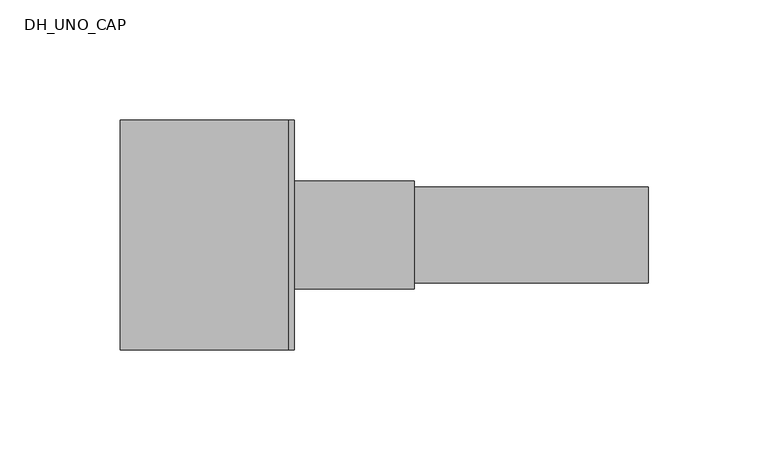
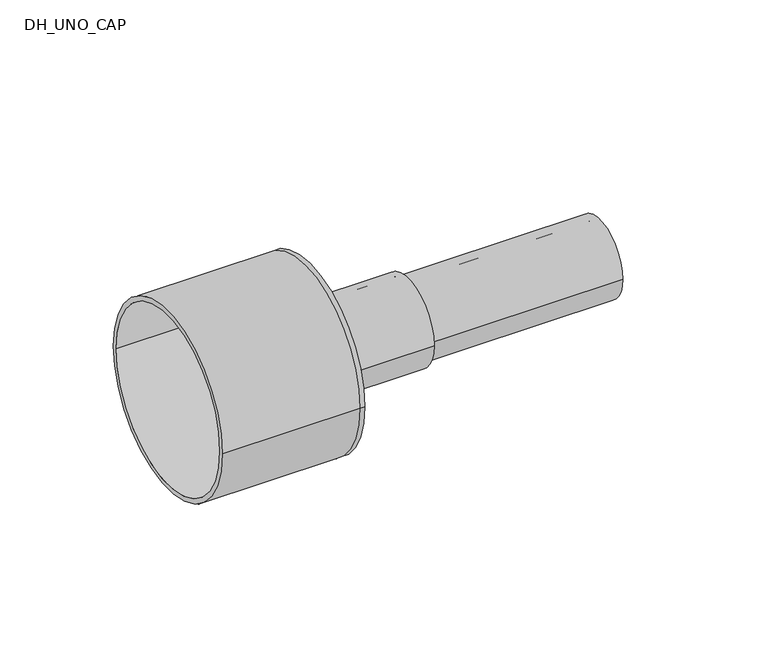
"""IFC4 building model written with IfcOpenShell, lengths in millimetres: pipe fitting geometry, DH_UNO_CAP : RAUTHERMEX UNO 11 COOL - Rubber Cap."""

from ifc_helpers import new_model, si_unit, point, frame, origin, origin_2d, place, context, project, spatial, polyline, circle_curve, trimmed, segment, composite_curve, outline, extrude, source, transform, mapped, element, save
from ifc_brep_helpers import plane_surface, cylinder_surface, revolved_surface, advanced_brep


def dh_uno_cap_723df487(model_context):
    return source(origin(), model_context, "Body", "SolidModel", [
        extrude(outline(composite_curve([segment(trimmed(circle_curve(origin_2d(), 20.0), [point((-20.0, 0.0))], [point((20.0, 0.0))], False, "CARTESIAN"), True, "CONTINUOUS"), segment(trimmed(circle_curve(origin_2d(), 20.0), [point((20.0, 0.0))], [point((-20.0, 0.0))], False, "CARTESIAN"), True, "CONTINUOUS")], self_intersect=False), holes=[composite_curve([segment(trimmed(circle_curve(origin_2d(), 16.3), [point((-16.3, 0.0))], [point((16.3, 0.0))], True, "CARTESIAN"), True, "CONTINUOUS"), segment(trimmed(circle_curve(origin_2d(), 16.3), [point((16.3, 0.0))], [point((-16.3, 0.0))], True, "CARTESIAN"), True, "CONTINUOUS")], self_intersect=False)]), frame((0.0, 0.0, 0.0), z_axis=(1.0, 0.0, 0.0), x_axis=(0.0, 1.0, 0.0)), (0.0, 0.0, 1.0), 150.0),
        advanced_brep(
        [(-70.0, -48.0, 0.0), (-70.0, 48.0, 0.0), (-70.0, -45.5, 0.0), (-70.0, 45.5, 0.0), (0.0, -45.5, 0.0), (0.0, 45.5, 0.0), (0.0, -48.0, 0.0), (0.0, 48.0, 0.0), (0.0, 20.0, 0.0), (0.0, -20.0, 0.0), (2.5, -48.0, 0.0), (2.5, 48.0, 0.0), (2.5, -20.0, 0.0), (2.5, 20.0, 0.0)],
        [
            (0, 1, circle_curve(frame((-70.0, 0.0, 0.0), z_axis=(-1.0, 0.0, 0.0), x_axis=(0.0, 1.0, 0.0)), 48.0)),
            (1, 0, circle_curve(frame((-70.0, 0.0, 0.0), z_axis=(-1.0, 0.0, 0.0), x_axis=(0.0, 1.0, 0.0)), 48.0)),
            (2, 3, circle_curve(frame((-70.0, 0.0, 0.0), z_axis=(1.0, 0.0, 0.0), x_axis=(0.0, 1.0, 0.0)), 45.5)),
            (3, 2, circle_curve(frame((-70.0, 0.0, 0.0), z_axis=(1.0, 0.0, 0.0), x_axis=(0.0, 1.0, 0.0)), 45.5)),
            (2, 4),
            (4, 5, circle_curve(frame((0.0, 0.0, 0.0), z_axis=(1.0, 0.0, 0.0), x_axis=(0.0, 1.0, 0.0)), 45.5)),
            (5, 3),
            (5, 4, circle_curve(frame((0.0, 0.0, 0.0), z_axis=(1.0, 0.0, 0.0), x_axis=(0.0, 1.0, 0.0)), 45.5)),
            (0, 6),
            (6, 7, circle_curve(frame((0.0, 0.0, 0.0), z_axis=(-1.0, 0.0, 0.0), x_axis=(0.0, 1.0, 0.0)), 48.0)),
            (7, 1),
            (7, 6, circle_curve(frame((0.0, 0.0, 0.0), z_axis=(-1.0, 0.0, 0.0), x_axis=(0.0, 1.0, 0.0)), 48.0)),
            (8, 9, circle_curve(frame((0.0, 0.0, 0.0), z_axis=(1.0, 0.0, 0.0), x_axis=(0.0, 1.0, 0.0)), 20.0)),
            (9, 8, circle_curve(frame((0.0, 0.0, 0.0), z_axis=(1.0, 0.0, 0.0), x_axis=(0.0, 1.0, 0.0)), 20.0)),
            (10, 11, circle_curve(frame((2.5, 0.0, 0.0), z_axis=(1.0, 0.0, 0.0), x_axis=(0.0, 1.0, 0.0)), 48.0)),
            (11, 10, circle_curve(frame((2.5, 0.0, 0.0), z_axis=(1.0, 0.0, 0.0), x_axis=(0.0, 1.0, 0.0)), 48.0)),
            (12, 13, circle_curve(frame((2.5, 0.0, 0.0), z_axis=(-1.0, 0.0, 0.0), x_axis=(0.0, 1.0, 0.0)), 20.0)),
            (13, 12, circle_curve(frame((2.5, 0.0, 0.0), z_axis=(-1.0, 0.0, 0.0), x_axis=(0.0, 1.0, 0.0)), 20.0)),
            (11, 7),
            (6, 10),
            (8, 13),
            (12, 9),
        ],
        [
            plane_surface(frame((-70.0, 0.0, 0.0), z_axis=(-1.0, 0.0, 0.0), x_axis=(0.0, 0.0, 1.0))),
            revolved_surface(polyline([(0.0, 45.5, 0.0), (-70.0, 45.5, 0.0)]), (-70.0, 0.0, 0.0), (1.0, 0.0, 0.0)),
            cylinder_surface(frame((-70.0, 0.0, 0.0), z_axis=(-1.0, 0.0, 0.0), x_axis=(0.0, 1.0, 0.0)), 48.0),
            plane_surface(frame((0.0, 0.0, 0.0), z_axis=(-1.0, 0.0, 0.0), x_axis=(0.0, 0.0, 1.0))),
            plane_surface(frame((2.5, 0.0, 0.0), z_axis=(1.0, 0.0, 0.0), x_axis=(0.0, 0.0, 1.0))),
            cylinder_surface(frame((0.0, 0.0, 0.0), z_axis=(-1.0, 0.0, 0.0), x_axis=(0.0, 1.0, 0.0)), 48.0),
            revolved_surface(polyline([(0.0, 20.0, 0.0), (2.5, 20.0, 0.0)]), (0.0, 0.0, 0.0), (-1.0, 0.0, 0.0)),
        ],
        [
            (0, [[1, 2], [3, 4]]),
            (1, [[-3, 5, 6, 7]]),
            (1, [[-4, -7, 8, -5]]),
            (2, [[-1, 9, 10, 11]]),
            (2, [[-2, -11, 12, -9]]),
            (3, [[-6, -8], [13, 14]]),
            (4, [[15, 16], [17, 18]]),
            (5, [[-16, 19, -10, 20]]),
            (5, [[-15, -20, -12, -19]]),
            (6, [[21, -17, 22, -13]]),
            (6, [[-21, -14, -22, -18]]),
        ],
    ),
        extrude(outline(composite_curve([segment(trimmed(circle_curve(origin_2d(), 22.5), [point((-22.5, 0.0))], [point((22.5, 0.0))], False, "CARTESIAN"), True, "CONTINUOUS"), segment(trimmed(circle_curve(origin_2d(), 22.5), [point((22.5, 0.0))], [point((-22.5, 0.0))], False, "CARTESIAN"), True, "CONTINUOUS")], self_intersect=False), holes=[composite_curve([segment(trimmed(circle_curve(origin_2d(), 20.0), [point((-20.0, 0.0))], [point((20.0, 0.0))], True, "CARTESIAN"), True, "CONTINUOUS"), segment(trimmed(circle_curve(origin_2d(), 20.0), [point((20.0, 0.0))], [point((-20.0, 0.0))], True, "CARTESIAN"), True, "CONTINUOUS")], self_intersect=False)]), frame((2.5, 0.0, 0.0), z_axis=(1.0, 0.0, 0.0), x_axis=(0.0, 1.0, 0.0)), (0.0, 0.0, 1.0), 50.0),
    ])


if __name__ == "__main__":
    model = new_model("IFC4")
    model_context = context("Model", 3, world=origin())
    ifc_project = project(units=[si_unit("LENGTHUNIT", "METRE", prefix="MILLI")], contexts=[model_context])
    site = spatial("IfcSite", under=ifc_project)
    building = spatial("IfcBuilding", under=site)
    placement = place(None, origin())
    dh_uno_cap_shape = dh_uno_cap_723df487(model_context)
    element("IfcPipeFitting", 1, ObjectType="DH_UNO_CAP : RAUTHERMEX UNO 11 COOL - Rubber Cap", at=placement, inside=building, context=model_context, shape_type="MappedRepresentation", body=[
        mapped(dh_uno_cap_shape, transform((0.0, 0.0, 0.0), x_axis=(1.0, 0.0, 0.0), y_axis=(0.0, 1.0, 0.0), z_axis=(0.0, 0.0, 1.0))),
    ])
    save(model, "model.ifc")
